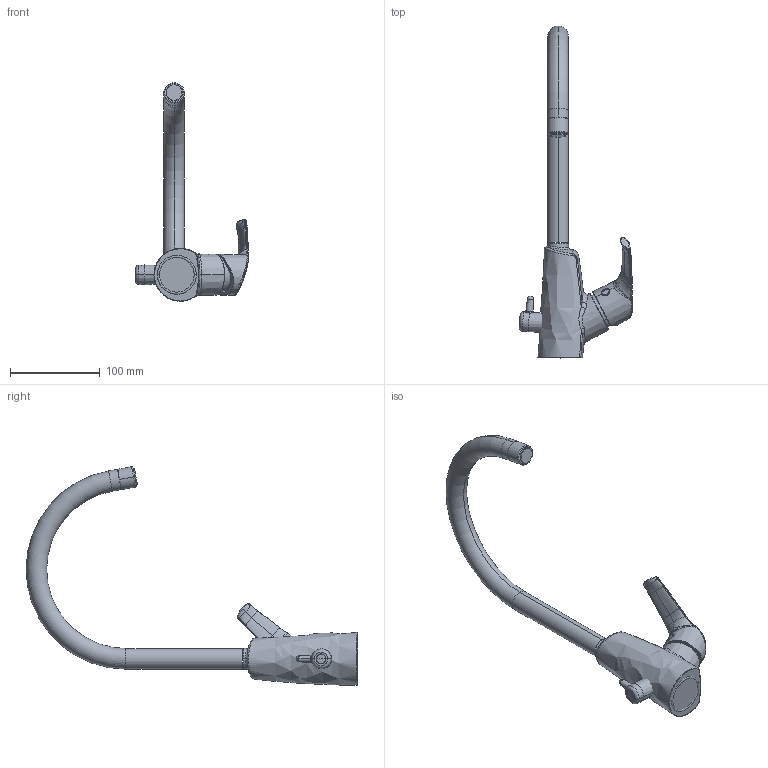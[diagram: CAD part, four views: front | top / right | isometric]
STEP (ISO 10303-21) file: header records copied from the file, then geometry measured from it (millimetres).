
FILE_DESCRIPTION((''),'2;1');
FILE_NAME('67071--','2026-10-14T11:39:24',('simi1'),(''),'CREO PARAMETRIC BY PTC INC, 2022244','CREO PARAMETRIC BY PTC INC, 2022244','');
FILE_SCHEMA(('CONFIG_CONTROL_DESIGN'));
Length unit declared in the file: millimetre
Products named in the file (1): 67071--
Bounding box: 126.81 x 370.45 x 243.92 mm (x, y, z)
Surface area: 81892.9 mm2 (no closed solid volume)
Topology: 0 solids, 39 shells, 361 faces, 1316 edges, 957 vertices
Faces by surface type: bspline 218, cylinder 45, plane 44, torus 28, cone 18, sphere 8
Entity records: 30393 total; most frequent: CARTESIAN_POINT 21822, ORIENTED_EDGE 1939, EDGE_CURVE 1312, DIRECTION 1083, VERTEX_POINT 957, B_SPLINE_CURVE_WITH_KNOTS 839, AXIS2_PLACEMENT_3D 467, EDGE_LOOP 361
